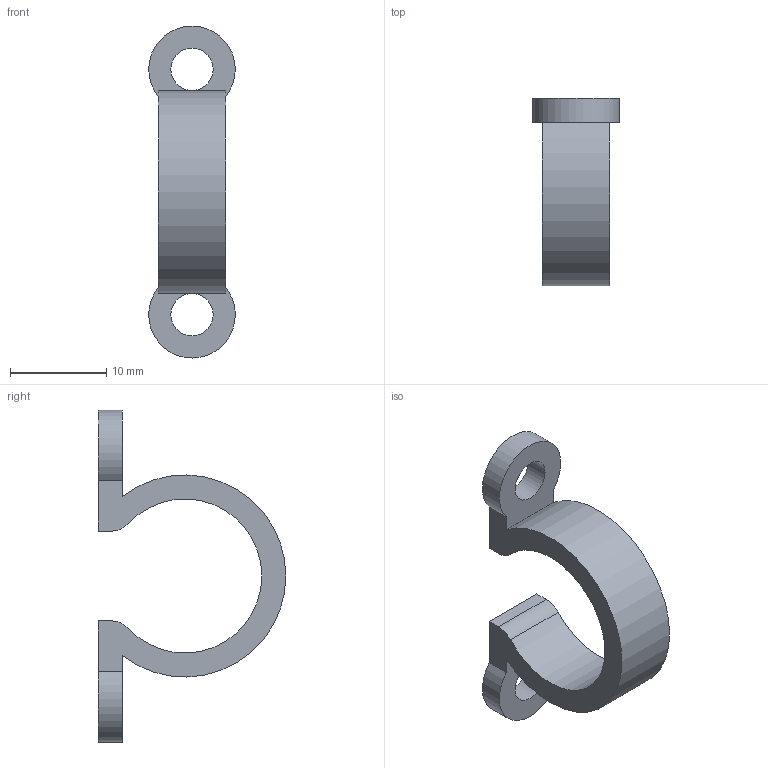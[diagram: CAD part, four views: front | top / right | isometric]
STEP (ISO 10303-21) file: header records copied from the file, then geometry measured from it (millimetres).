
FILE_DESCRIPTION(/* description */ ('STEP AP242','CAx-IF Rec.Pracs.---Representation and Presentation of Product Manufacturing Information (PMI)---4.0---2014-10-13','CAx-IF Rec.Pracs.---3D Tessellated Geometry---0.4---2014-09-14','2;1'),/* implementation_level */ '2;1');
FILE_NAME(/* name */ '6869df66e1723828ff557762',/* time_stamp */ '2025-07-06T02:28:54Z',/* author */ (''),/* organization */ (''),/* preprocessor_version */ 'ST-DEVELOPER v20',/* originating_system */ 'ONSHAPE BY PTC INC, 1.200',/* authorisation */ ' ');
FILE_SCHEMA (('AP242_MANAGED_MODEL_BASED_3D_ENGINEERING_MIM_LF { 1 0 10303 442 1 1 4 }'));
Length unit declared in the file: metre
Products named in the file (1): Part 1
Bounding box: 9 x 19.5 x 34.49 mm (x, y, z)
Volume: 1144.7 mm3; surface area: 1342.1 mm2
Topology: 1 solids, 1 shells, 17 faces, 44 edges, 29 vertices
Faces by surface type: plane 9, cylinder 6, bspline 2
Full cylindrical faces by diameter (mm): 4.4 x2
Entity records: 558 total; most frequent: CARTESIAN_POINT 127, ORIENTED_EDGE 84, DIRECTION 78, EDGE_CURVE 42, VERTEX_POINT 29, AXIS2_PLACEMENT_3D 28, EDGE_LOOP 23, FACE_BOUND 23
